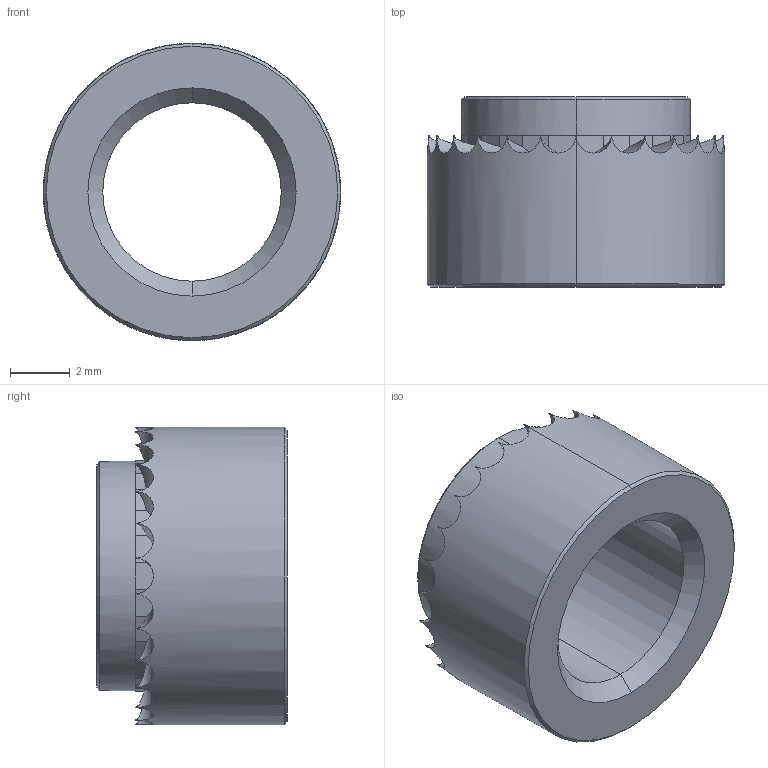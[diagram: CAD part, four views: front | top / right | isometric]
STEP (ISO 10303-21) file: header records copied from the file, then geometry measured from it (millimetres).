
FILE_DESCRIPTION (( 'STEP AP203' ), '1' );
FILE_NAME ('P0829.060-22G-ZP.step', '2019-03-21T22:18:18', ( '' ), ( '' ), 'SwSTEP 2.0', 'SolidWorks 2017', '' );
FILE_SCHEMA (( 'CONFIG_CONTROL_DESIGN' ));
Length unit declared in the file: millimetre
Products named in the file (1): P0829.060-22G-ZP
Bounding box: 10 x 6.4 x 10 mm (x, y, z)
Volume: 258.9 mm3; surface area: 405.8 mm2
Topology: 1 solids, 1 shells, 120 faces, 294 edges, 176 vertices
Faces by surface type: plane 80, cylinder 32, cone 8
Entity records: 3739 total; most frequent: CARTESIAN_POINT 903, ORIENTED_EDGE 588, DIRECTION 582, EDGE_CURVE 294, AXIS2_PLACEMENT_3D 219, VERTEX_POINT 176, VECTOR 144, LINE 144
